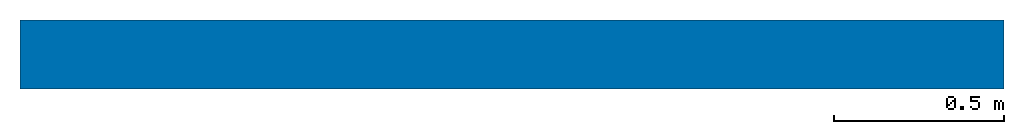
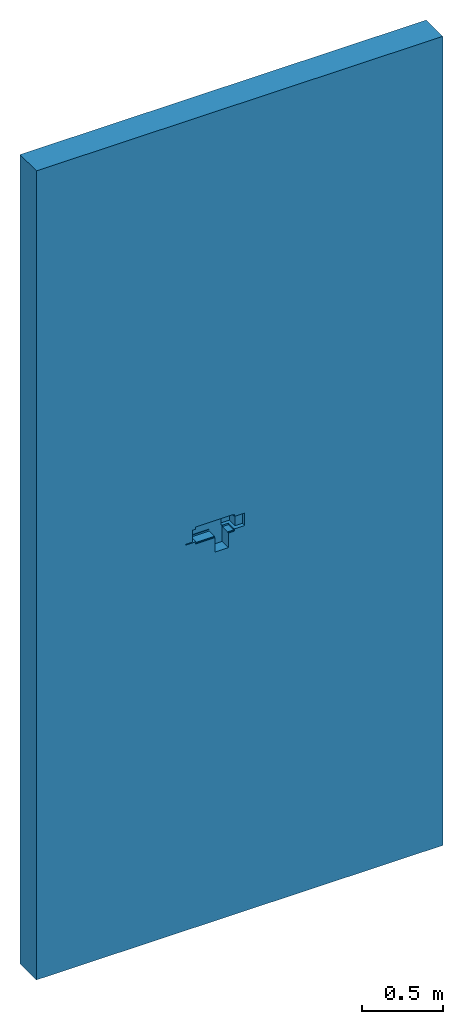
# One storey: 1 wall, 1 opening.
"""IFC2X3 building model written with IfcOpenShell, lengths in feet."""

from ifc_helpers import new_model, entity, si_unit, converted_unit, derived_unit, direction, frame, frame_2d, origin, place, context, subcontext, project, spatial, rectangle, extrude, faceted_brep, material, layer, layer_set, layer_usage, type_object, element, save


model = new_model("IFC2X3")

# Units and contexts
model_context = context("Model", 3, precision=0.0001, world=origin(), true_north=direction((6.12303176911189e-17, 1.0)))
body_context = subcontext(model_context, "Body", "Model", "MODEL_VIEW")
ifc_project = project(units=[converted_unit("LENGTHUNIT", "FOOT", entity("IfcRatioMeasure", 0.3048), si_unit("LENGTHUNIT", "METRE"), dimensions=[1, 0, 0, 0, 0, 0, 0]), converted_unit("AREAUNIT", "SQUARE FOOT", entity("IfcRatioMeasure", 0.09290304), si_unit("AREAUNIT", "SQUARE_METRE"), dimensions=[2, 0, 0, 0, 0, 0, 0]), converted_unit("VOLUMEUNIT", "CUBIC FOOT", entity("IfcRatioMeasure", 0.028316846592), si_unit("VOLUMEUNIT", "CUBIC_METRE"), dimensions=[3, 0, 0, 0, 0, 0, 0]), converted_unit("PLANEANGLEUNIT", "DEGREE", entity("IfcRatioMeasure", 0.0174532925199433), si_unit("PLANEANGLEUNIT", "RADIAN"), dimensions=[0, 0, 0, 0, 0, 0, 0]), si_unit("MASSUNIT", "GRAM", prefix="KILO"), derived_unit("MASSDENSITYUNIT", [(si_unit("MASSUNIT", "GRAM", prefix="KILO"), 1), (si_unit("LENGTHUNIT", "METRE"), -3)]), si_unit("TIMEUNIT", "SECOND"), si_unit("FREQUENCYUNIT", "HERTZ"), si_unit("THERMODYNAMICTEMPERATUREUNIT", "DEGREE_CELSIUS"), derived_unit("THERMALTRANSMITTANCEUNIT", [(si_unit("MASSUNIT", "GRAM", prefix="KILO"), 1), (si_unit("THERMODYNAMICTEMPERATUREUNIT", "KELVIN"), -1), (si_unit("TIMEUNIT", "SECOND"), -3)]), derived_unit("VOLUMETRICFLOWRATEUNIT", [(si_unit("LENGTHUNIT", "METRE"), 3), (si_unit("TIMEUNIT", "SECOND"), -1)]), si_unit("ELECTRICCURRENTUNIT", "AMPERE"), si_unit("ELECTRICVOLTAGEUNIT", "VOLT"), si_unit("POWERUNIT", "WATT"), si_unit("FORCEUNIT", "NEWTON"), si_unit("ILLUMINANCEUNIT", "LUX"), si_unit("LUMINOUSFLUXUNIT", "LUMEN"), si_unit("LUMINOUSINTENSITYUNIT", "CANDELA"), derived_unit("USERDEFINED", [(si_unit("MASSUNIT", "GRAM", prefix="KILO"), -1), (si_unit("LENGTHUNIT", "METRE"), -2), (si_unit("TIMEUNIT", "SECOND"), 3), (si_unit("LUMINOUSFLUXUNIT", "LUMEN"), 1)]), derived_unit("LINEARVELOCITYUNIT", [(si_unit("LENGTHUNIT", "METRE"), 1), (si_unit("TIMEUNIT", "SECOND"), -1)]), si_unit("PRESSUREUNIT", "PASCAL"), derived_unit("USERDEFINED", [(si_unit("LENGTHUNIT", "METRE"), -2), (si_unit("MASSUNIT", "GRAM", prefix="KILO"), 1), (si_unit("TIMEUNIT", "SECOND"), -2)])], contexts=[model_context])

# Site, building, storey
site_placement = place(None, origin())
site = spatial("IfcSite", under=ifc_project, at=site_placement, Name="Default", CompositionType="ELEMENT")
building_placement = place(site_placement, origin())
building = spatial("IfcBuilding", under=site, at=building_placement, CompositionType="ELEMENT")
storey_placement = place(building_placement, origin())
storey = spatial("IfcBuildingStorey", under=building, at=storey_placement, Name="Level 1", CompositionType="ELEMENT", Elevation=0.0)

# Wall, opening
ifc_material = material(Name="Default Wall")
ifc_layer = layer(ifc_material, 0.666666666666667)
ifc_layer_set = layer_set([ifc_layer], Name="Basic Wall:Generic - 8\"")
ifc_layer_usage = layer_usage(ifc_layer_set, "AXIS2", "NEGATIVE", 0.333333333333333)
wall_type = type_object("IfcWallType", Name="Basic Wall:Generic - 8\"", PredefinedType="STANDARD", material=ifc_layer_set)
wall_placement = place(storey_placement, frame((-11.0567632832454, 7.39698709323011, 0.0)))
wall = element("IfcWallStandardCase", 1, at=wall_placement, inside=storey, type_object=wall_type, material=ifc_layer_usage, Name="Basic Wall:Generic - 8\"", ObjectType="Basic Wall:Generic - 8\"", context=body_context, shape_type="SweptSolid", body=[
    extrude(rectangle(XDim=9.5, YDim=0.666666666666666, at=frame_2d((4.75, -2.77555756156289e-17), x_axis=(-1.0, 0.0))), origin(), (0.0, 0.0, 1.0), 20.0),
])
opening_placement = place(wall_placement, frame((3.48624622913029, -0.495756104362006, 9.11619506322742)))
element("IfcOpeningElement", 2, at=opening_placement, cuts=wall, Name="Basic Wall:Generic - 8\"", ObjectType="Opening", context=body_context, shape_type="Brep", body=[
    faceted_brep([(0.0, 0.0, 0.411676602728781), (0.230889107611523, 0.0, 0.411676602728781), (0.230889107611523, 0.0, 0.357660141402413), (0.690206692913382, 0.0, 0.357660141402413), (0.690206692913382, 0.0, 0.0), (0.998088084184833, 0.0, 0.0), (0.998088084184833, 0.0, 0.357660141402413), (1.1495242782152, 0.0, 0.357660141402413), (1.1495242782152, 0.0, 0.411676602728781), (1.38123359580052, 0.0, 0.411676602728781), (1.38123359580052, 0.0, 0.723356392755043), (1.1495242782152, 0.0, 0.723356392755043), (1.1495242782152, 0.0, 0.777607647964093), (0.230889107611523, 0.0, 0.777607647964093), (0.230889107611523, 0.0, 0.723356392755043), (0.0, 0.0, 0.723356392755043), (0.0, 0.188648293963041, 0.411676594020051), (0.172244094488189, 0.188648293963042, 0.411676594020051), (0.172244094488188, 0.418307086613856, 0.411676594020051), (0.690206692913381, 0.418307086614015, 0.411676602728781), (0.690206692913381, 0.401902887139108, 0.411676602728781), (0.244422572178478, 0.401902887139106, 0.411676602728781), (0.244422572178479, 0.187978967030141, 0.411676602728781), (0.230889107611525, 0.187978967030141, 0.411676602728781), (0.0, 0.188648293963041, 0.723356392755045), (0.230889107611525, 0.187978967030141, 0.723356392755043), (0.244422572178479, 0.187978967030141, 0.723356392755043), (0.244422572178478, 0.401902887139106, 0.723356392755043), (1.13681102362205, 0.401902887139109, 0.723356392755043), (1.13681102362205, 0.187978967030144, 0.723356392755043), (1.1495242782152, 0.187978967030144, 0.723356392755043), (1.38123359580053, 0.254265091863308, 0.723356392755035), (1.20898950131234, 0.254265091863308, 0.723356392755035), (1.20898950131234, 0.483923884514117, 0.723356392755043), (0.979330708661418, 0.483923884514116, 0.723356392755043), (0.979330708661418, 0.418307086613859, 0.723356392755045), (0.17224409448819, 0.418307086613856, 0.723356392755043), (0.172244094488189, 0.188648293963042, 0.723356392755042), (1.38123359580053, 0.254265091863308, 0.411676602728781), (1.20898950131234, 0.254265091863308, 0.411676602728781), (0.979330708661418, 0.418307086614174, 0.411676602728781), (0.998088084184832, 0.418307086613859, 0.411676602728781), (0.998088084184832, 0.418307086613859, 0.0), (0.690206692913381, 0.418307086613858, 0.0), (0.690206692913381, 0.418307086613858, 0.411676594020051), (1.20898950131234, 0.483923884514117, 0.411676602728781), (0.979330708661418, 0.483923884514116, 0.411676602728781), (0.979330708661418, 0.418307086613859, 0.411676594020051), (1.13681102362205, 0.401902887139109, 0.760101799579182), (0.244422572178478, 0.401902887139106, 0.760101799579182), (0.244422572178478, 0.401902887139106, 0.374931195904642), (0.690206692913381, 0.401902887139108, 0.374931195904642), (0.690206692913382, 0.187978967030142, 0.374931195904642), (0.244422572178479, 0.187978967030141, 0.374931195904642), (0.244422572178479, 0.187978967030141, 0.760101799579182), (1.13681102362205, 0.187978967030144, 0.760101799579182), (1.1495242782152, 0.187978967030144, 0.777607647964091), (0.230889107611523, 0.187978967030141, 0.777607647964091), (0.230889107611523, 0.187978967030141, 0.357660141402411), (0.690206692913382, 0.187978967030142, 0.357660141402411), (1.1495242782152, 0.187978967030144, 0.357660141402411), (1.1495242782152, 0.187978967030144, 0.411676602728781), (0.998088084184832, 0.401902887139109, 0.411676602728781), (0.998088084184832, 0.401902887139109, 0.374931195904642), (0.998088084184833, 0.187978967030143, 0.374931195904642), (0.998088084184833, 0.187978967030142, 0.357660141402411), (1.13681102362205, 0.187978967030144, 0.374931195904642), (1.13681102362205, 0.187978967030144, 0.411676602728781), (1.13681102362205, 0.401902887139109, 0.411676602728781), (1.13681102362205, 0.401902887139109, 0.374931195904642)], [[[0, 1, 2, 3, 4, 5, 6, 7, 8, 9, 10, 11, 12, 13, 14, 15]], [[16, 17, 18, 19, 20, 21, 22, 23, 1, 0]], [[15, 24, 16, 0]], [[15, 14, 25, 26, 27, 28, 29, 30, 11, 10, 31, 32, 33, 34, 35, 36, 37, 24]], [[9, 38, 31, 10]], [[24, 37, 17, 16]], [[38, 39, 32, 31]], [[36, 35, 40, 41, 42, 43, 44, 18]], [[18, 17, 37, 36]], [[39, 45, 33, 32]], [[45, 46, 34, 33]], [[46, 47, 35, 34]], [[48, 28, 27, 49]], [[50, 51, 52, 53]], [[50, 53, 22, 21]], [[49, 54, 55, 48]], [[48, 55, 29, 28]], [[56, 30, 29, 55, 54, 26, 25, 57]], [[58, 59, 3, 2]], [[57, 25, 14, 13]], [[57, 13, 12, 56]], [[60, 61, 8, 7]], [[42, 5, 4, 43]], [[4, 3, 59, 52, 51, 20, 44, 43]], [[42, 41, 62, 63, 64, 65, 6, 5]], [[12, 11, 30, 56]], [[2, 1, 23, 58]], [[7, 6, 65, 60]], [[60, 65, 64, 66, 67, 61]], [[23, 22, 53, 52, 59, 58]], [[68, 67, 66, 69]], [[27, 26, 54, 49]], [[66, 64, 63, 69]], [[69, 63, 62, 68]], [[21, 20, 51, 50]], [[9, 8, 61, 67, 68, 62, 41, 47, 46, 45, 39, 38]]]),
])

save(model, "model.ifc")
